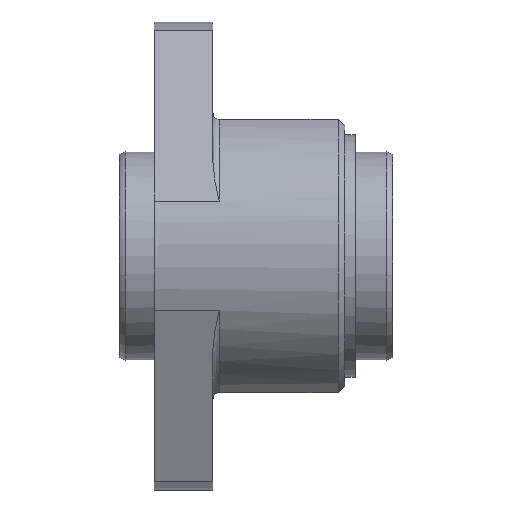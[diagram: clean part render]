
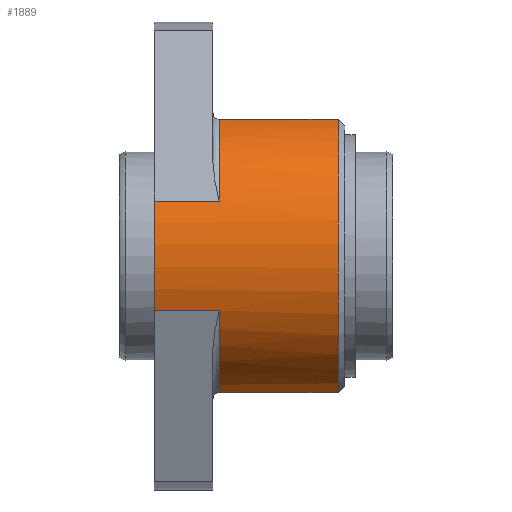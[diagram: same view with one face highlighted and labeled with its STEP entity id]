
A CAD part, top view. The second image highlights one B-rep face of the part: STEP entity #1889.
In plain terms, the highlighted cylindrical face has radius 22 mm (diameter 44 mm), a partial arc.
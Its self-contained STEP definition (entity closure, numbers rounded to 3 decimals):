
#1460=CARTESIAN_POINT('',(10.0,8.419,20.325));
#1461=VERTEX_POINT('',#1460);
#1469=CARTESIAN_POINT('',(10.0,21.0,6.557));
#1470=VERTEX_POINT('',#1469);
#1471=CARTESIAN_POINT('',(10.0,0.0,0.0));
#1472=DIRECTION('',(-1.,0.0,0.0));
#1473=DIRECTION('',(0.0,0.738,0.675));
#1474=AXIS2_PLACEMENT_3D('',#1471,#1472,#1473);
#1475=CIRCLE('',#1474,22.0);
#1476=EDGE_CURVE('',#1461,#1470,#1475,.T.);
#1677=CARTESIAN_POINT('',(10.0,-21.0,6.557));
#1678=VERTEX_POINT('',#1677);
#1679=CARTESIAN_POINT('',(10.0,-8.419,20.325));
#1680=VERTEX_POINT('',#1679);
#1681=CARTESIAN_POINT('',(10.0,0.0,0.0));
#1682=DIRECTION('',(-1.,0.0,0.0));
#1683=DIRECTION('',(0.0,-0.738,0.675));
#1684=AXIS2_PLACEMENT_3D('',#1681,#1682,#1683);
#1685=CIRCLE('',#1684,22.0);
#1686=EDGE_CURVE('',#1678,#1680,#1685,.T.);
#1834=CARTESIAN_POINT('',(0.0,0.0,0.0));
#1835=DIRECTION('',(1.0,0.0,0.0));
#1836=DIRECTION('',(0.0,1.0,0.0));
#1837=AXIS2_PLACEMENT_3D('',#1834,#1835,#1836);
#1838=CYLINDRICAL_SURFACE('',#1837,22.0);
#1839=CARTESIAN_POINT('',(0.0,8.419,20.325));
#1840=VERTEX_POINT('',#1839);
#1841=CARTESIAN_POINT('',(0.0,8.419,20.325));
#1842=DIRECTION('',(1.0,0.0,0.0));
#1843=VECTOR('',#1842,10.0);
#1844=LINE('',#1841,#1843);
#1845=EDGE_CURVE('',#1840,#1461,#1844,.T.);
#1846=ORIENTED_EDGE('',*,*,#1845,.F.);
#1847=CARTESIAN_POINT('',(0.0,-8.419,20.325));
#1848=VERTEX_POINT('',#1847);
#1849=CARTESIAN_POINT('',(0.0,0.0,0.0));
#1850=DIRECTION('',(1.0,0.0,0.0));
#1851=DIRECTION('',(0.0,1.0,0.0));
#1852=AXIS2_PLACEMENT_3D('',#1849,#1850,#1851);
#1853=CIRCLE('',#1852,22.0);
#1854=EDGE_CURVE('',#1840,#1848,#1853,.T.);
#1855=ORIENTED_EDGE('',*,*,#1854,.T.);
#1856=CARTESIAN_POINT('',(0.0,-8.419,20.325));
#1857=DIRECTION('',(1.0,0.0,0.0));
#1858=VECTOR('',#1857,10.0);
#1859=LINE('',#1856,#1858);
#1860=EDGE_CURVE('',#1848,#1680,#1859,.T.);
#1861=ORIENTED_EDGE('',*,*,#1860,.T.);
#1862=ORIENTED_EDGE('',*,*,#1686,.F.);
#1863=CARTESIAN_POINT('',(28.3,-21.0,6.557));
#1864=VERTEX_POINT('',#1863);
#1865=CARTESIAN_POINT('',(10.0,-21.0,6.557));
#1866=DIRECTION('',(1.0,0.0,0.0));
#1867=VECTOR('',#1866,18.3);
#1868=LINE('',#1865,#1867);
#1869=EDGE_CURVE('',#1678,#1864,#1868,.T.);
#1870=ORIENTED_EDGE('',*,*,#1869,.T.);
#1871=CARTESIAN_POINT('',(28.3,21.0,6.557));
#1872=VERTEX_POINT('',#1871);
#1873=CARTESIAN_POINT('',(28.3,0.0,0.0));
#1874=DIRECTION('',(1.0,0.0,0.0));
#1875=DIRECTION('',(0.0,1.0,0.0));
#1876=AXIS2_PLACEMENT_3D('',#1873,#1874,#1875);
#1877=CIRCLE('',#1876,22.0);
#1878=EDGE_CURVE('',#1872,#1864,#1877,.T.);
#1879=ORIENTED_EDGE('',*,*,#1878,.F.);
#1880=CARTESIAN_POINT('',(10.0,21.0,6.557));
#1881=DIRECTION('',(1.0,0.0,0.0));
#1882=VECTOR('',#1881,18.3);
#1883=LINE('',#1880,#1882);
#1884=EDGE_CURVE('',#1470,#1872,#1883,.T.);
#1885=ORIENTED_EDGE('',*,*,#1884,.F.);
#1886=ORIENTED_EDGE('',*,*,#1476,.F.);
#1887=EDGE_LOOP('',(#1846,#1855,#1861,#1862,#1870,#1879,#1885,#1886));
#1888=FACE_OUTER_BOUND('',#1887,.T.);
#1889=ADVANCED_FACE('',(#1888),#1838,.T.);
